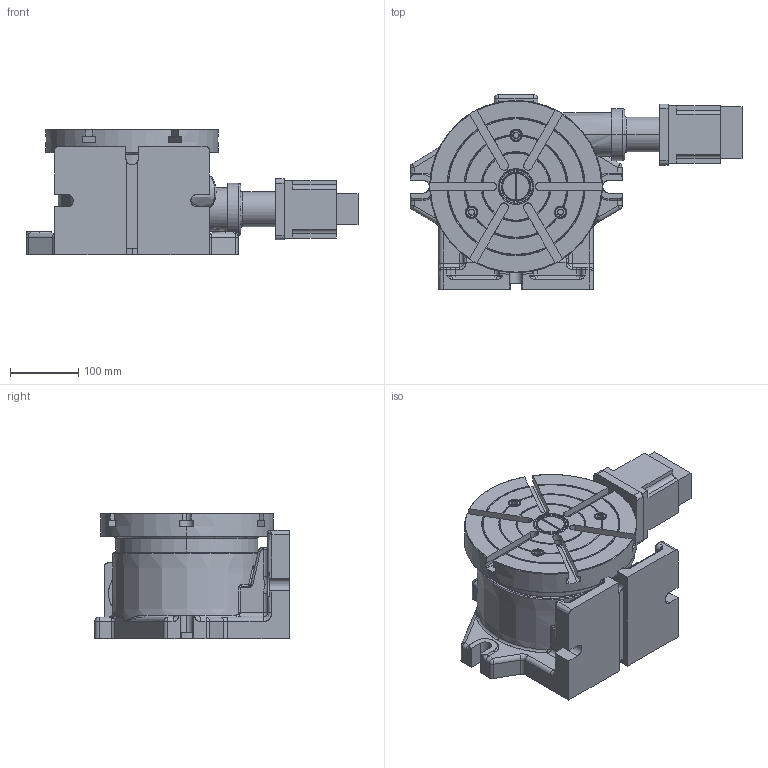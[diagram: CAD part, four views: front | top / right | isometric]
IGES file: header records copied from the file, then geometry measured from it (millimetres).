
Start section: SolidWorks IGES file using analytic representation for surfaces
Global section: file name: R:\Drawings\Files saved as other types\Solid_Models\MODELS FOR PUBLIC\34122_8-INCH_SS_WITH_FACEPLATE.IGS; native system: SolidWorks 2012; preprocessor: SolidWorks 2012; author: rtooley; date: 140630.113237; units: inch
Bounding box: 485.14 x 284.48 x 183.98 mm (x, y, z)
Surface area: 602261 mm2 (no closed solid volume)
Topology: 0 solids, 0 shells, 948 faces, 17224 edges, 17205 vertices
Faces by surface type: revolution 589, bspline 359
